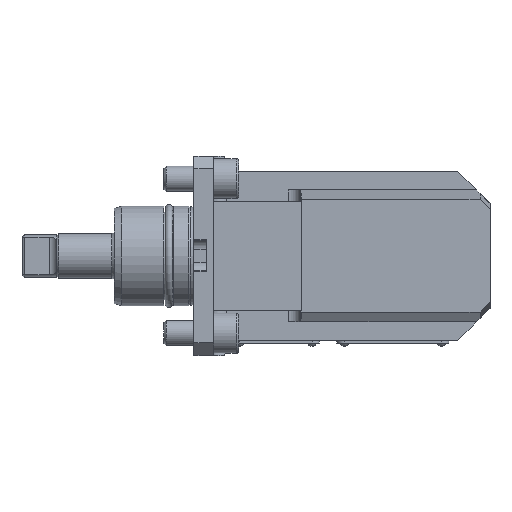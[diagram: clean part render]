
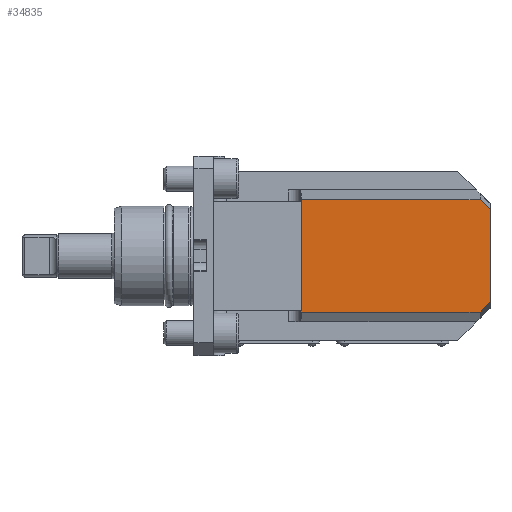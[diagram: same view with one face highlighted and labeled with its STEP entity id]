
A CAD part, top view. The second image highlights one B-rep face of the part: STEP entity #34835.
In plain terms, the highlighted planar face has unit normal (0, 0, 1).
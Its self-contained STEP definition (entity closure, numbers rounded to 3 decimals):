
#14539=VECTOR('',#23136,1.);
#14541=VECTOR('',#23140,1.);
#14543=VECTOR('',#23144,1.);
#14544=VECTOR('',#23145,1.);
#14545=VECTOR('',#23146,1.);
#14546=VECTOR('',#23147,1.);
#15196=LINE('',#25900,#14539);
#15198=LINE('',#25904,#14541);
#15200=LINE('',#25908,#14543);
#15201=LINE('',#25910,#14544);
#15202=LINE('',#25912,#14545);
#15203=LINE('',#25913,#14546);
#15758=PLANE('',#33686);
#16490=ORIENTED_EDGE('',*,*,#20091,.F.);
#16491=ORIENTED_EDGE('',*,*,#20093,.F.);
#16492=ORIENTED_EDGE('',*,*,#20095,.F.);
#16493=ORIENTED_EDGE('',*,*,#20096,.T.);
#16494=ORIENTED_EDGE('',*,*,#20097,.F.);
#16495=ORIENTED_EDGE('',*,*,#20098,.T.);
#19141=VERTEX_POINT('',#25897);
#19142=VERTEX_POINT('',#25899);
#19143=VERTEX_POINT('',#25903);
#19144=VERTEX_POINT('',#25907);
#19145=VERTEX_POINT('',#25909);
#19146=VERTEX_POINT('',#25911);
#20091=EDGE_CURVE('',#19141,#19142,#15196,.T.);
#20093=EDGE_CURVE('',#19143,#19141,#15198,.T.);
#20095=EDGE_CURVE('',#19144,#19143,#15200,.T.);
#20096=EDGE_CURVE('',#19144,#19145,#15201,.T.);
#20097=EDGE_CURVE('',#19146,#19145,#15202,.T.);
#20098=EDGE_CURVE('',#19146,#19142,#15203,.T.);
#21193=EDGE_LOOP('',(#16490,#16491,#16492,#16493,#16494,#16495));
#21987=FACE_BOUND('',#21193,.T.);
#23136=DIRECTION('',(71.8,0.,0.));
#23140=DIRECTION('',(0.,45.177,0.));
#23142=DIRECTION('',(0.,0.,1.));
#23143=DIRECTION('',(0.,-1.,0.));
#23144=DIRECTION('',(-71.8,0.,0.));
#23145=DIRECTION('',(4.,4.141,0.));
#23146=DIRECTION('',(0.,-36.895,0.));
#23147=DIRECTION('',(-4.,4.141,0.));
#25897=CARTESIAN_POINT('',(43.2,22.588,53.));
#25899=CARTESIAN_POINT('',(115.,22.588,53.));
#25900=CARTESIAN_POINT('',(43.2,22.588,53.));
#25903=CARTESIAN_POINT('',(43.2,-22.588,53.));
#25904=CARTESIAN_POINT('',(43.2,-22.588,53.));
#25906=CARTESIAN_POINT('',(85.,0.,53.));
#25907=CARTESIAN_POINT('',(115.,-22.588,53.));
#25908=CARTESIAN_POINT('',(115.,-22.588,53.));
#25909=CARTESIAN_POINT('',(119.,-18.447,53.));
#25910=CARTESIAN_POINT('',(115.,-22.588,53.));
#25911=CARTESIAN_POINT('',(119.,18.447,53.));
#25912=CARTESIAN_POINT('',(119.,18.447,53.));
#25913=CARTESIAN_POINT('',(119.,18.447,53.));
#33686=AXIS2_PLACEMENT_3D('',#25906,#23142,#23143);
#34835=ADVANCED_FACE('',(#21987),#15758,.T.);
